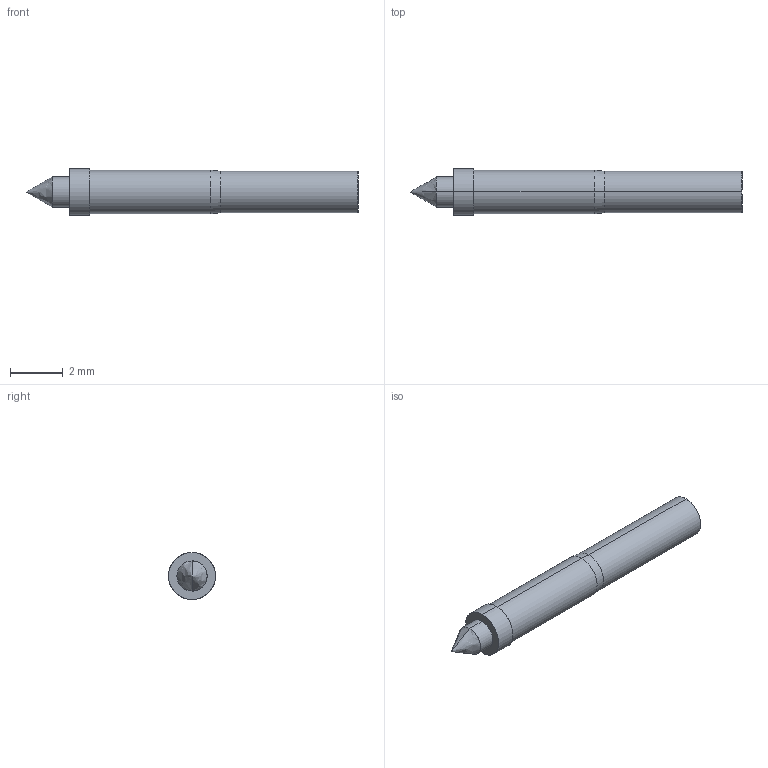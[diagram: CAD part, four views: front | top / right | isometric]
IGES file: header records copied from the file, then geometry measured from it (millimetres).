
Start section: SolidWorks IGES file using analytic representation for surfaces
Global section: file name: O:\PYLON\IGES FILES\E-S\E-S-C.IGS; native system: SolidWorks 2015; preprocessor: SolidWorks 2015; author: kgolden; date: 171024.082928; units: inch
Bounding box: 12.57 x 1.78 x 1.78 mm (x, y, z)
Surface area: 73.2 mm2 (no closed solid volume)
Topology: 0 solids, 0 shells, 18 faces, 200 edges, 198 vertices
Faces by surface type: revolution 14, bspline 4
